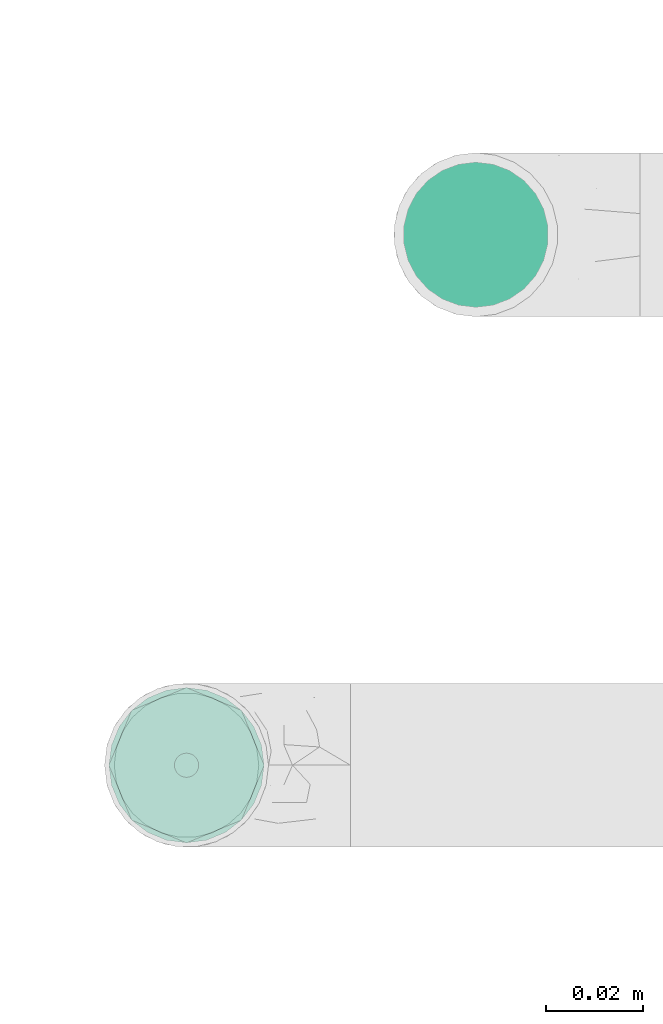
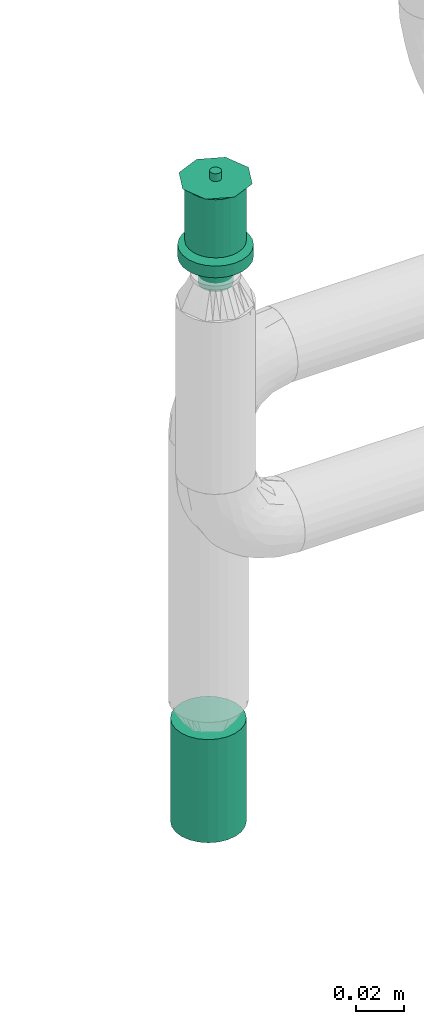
# One storey, part 37 of 157: 2 flow terminals.
"""IFC2X3 building model written with IfcOpenShell, lengths in millimetres."""

from ifc_helpers import new_model, entity, si_unit, converted_unit, derived_unit, direction, frame, origin_with_axes, place, context, subcontext, project, spatial, open_shell, surface_model, source, transform, mapped, type_object, element, save


model = new_model("IFC2X3")

# Units and contexts
model_context = context("Model", 3, precision=0.01, world=frame((0.0, 4.29681676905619e-09, 0.0)), true_north=direction((4.01073788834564e-13, 1.0)))
plan_context = context("Plan", 3, precision=0.01, world=frame((0.0, 4.29681676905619e-09, 0.0)), true_north=direction((4.01073788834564e-13, 1.0)))
body_context = subcontext(model_context, "Body", "Model", "MODEL_VIEW")
ifc_project = project(units=[converted_unit("PLANEANGLEUNIT", "DEGREE", entity("IfcPositiveLengthMeasure", 0.0174532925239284), si_unit("PLANEANGLEUNIT", "RADIAN"), dimensions=[0, 0, 0, 0, 0, 0, 0]), si_unit("AREAUNIT", "SQUARE_METRE"), si_unit("LENGTHUNIT", "METRE", prefix="MILLI"), si_unit("MASSUNIT", "GRAM", prefix="KILO"), si_unit("POWERUNIT", "WATT"), si_unit("PRESSUREUNIT", "PASCAL"), si_unit("FORCEUNIT", "NEWTON", prefix="KILO"), si_unit("ELECTRICCURRENTUNIT", "AMPERE"), si_unit("THERMODYNAMICTEMPERATUREUNIT", "DEGREE_CELSIUS"), si_unit("TIMEUNIT", "SECOND"), si_unit("VOLUMEUNIT", "CUBIC_METRE"), derived_unit("LINEARVELOCITYUNIT", [(si_unit("LENGTHUNIT", "METRE"), 1), (si_unit("TIMEUNIT", "SECOND"), -1)]), derived_unit("VOLUMETRICFLOWRATEUNIT", [(si_unit("VOLUMEUNIT", "CUBIC_METRE"), 1), (si_unit("TIMEUNIT", "SECOND"), -1)]), derived_unit("THERMALTRANSMITTANCEUNIT", [(si_unit("POWERUNIT", "WATT"), 1), (si_unit("THERMODYNAMICTEMPERATUREUNIT", "KELVIN"), -1), (si_unit("AREAUNIT", "SQUARE_METRE"), -1)])], contexts=[model_context, plan_context])

# Site, building, storey
site_placement = place(None, frame((0.0, -4.29681676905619e-09, 0.0), z_axis=(0.0, 0.0, 1.0), x_axis=(1.0, 0.0, 0.0)))
site = spatial("IfcSite", under=ifc_project, at=site_placement, CompositionType="ELEMENT")
building_placement = place(site_placement, frame((0.0, 4.29681676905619e-09, 0.0), z_axis=(0.0, 0.0, 1.0), x_axis=(1.0, 0.0, 0.0)))
building = spatial("IfcBuilding", under=site, at=building_placement, Name="mc-building", CompositionType="ELEMENT")
storey_placement = place(building_placement, frame((0.0, 0.0, 204000.0), z_axis=(0.0, 0.0, 1.0), x_axis=(1.0, 0.0, 0.0)))
storey = spatial("IfcBuildingStorey", under=building, at=storey_placement, Name="Nivå D", CompositionType="ELEMENT", Elevation=204000.0)

# Flow terminals
fire_suppression_terminal_type_1 = type_object("IfcFireSuppressionTerminalType", Name="SP-15-K80-68DGR-STD-HIMLING", PredefinedType="NOTDEFINED")
shared_shape_1 = source(origin_with_axes(), body_context, "Body", "SurfaceModel", [
    surface_model("IfcShellBasedSurfaceModel", [(4.1411, -15.45481, 53.0), (8.0, -13.85641, 53.0), (11.31371, -11.31371, 53.0), (-8.0, -13.85641, 53.0), (15.45481, -4.1411, 53.0), (16.0, 0.0, 53.0), (13.85641, -8.0, 53.0), (0.0, -16.0, 53.0), (-4.1411, -15.45481, 53.0), (-13.85641, -8.0, 53.0), (-11.31371, -11.31371, 53.0), (-15.45481, -4.1411, 53.0), (15.45481, 4.1411, 53.0), (13.85641, 8.0, 53.0), (11.31371, 11.31371, 53.0), (-4.1411, 15.45481, 53.0), (8.0, 13.85641, 53.0), (4.1411, 15.45481, 53.0), (0.0, 16.0, 53.0), (-13.85641, 8.0, 53.0), (-15.45481, 4.1411, 53.0), (-16.0, 0.0, 53.0), (-11.31371, 11.31371, 53.0), (-8.0, 13.85641, 53.0), (0.0, 16.0, 0.0), (4.1411, 15.45481, 0.0), (8.0, 13.85641, 0.0), (-4.1411, 15.45481, 0.0), (11.31371, 11.31371, 0.0), (13.85641, 8.0, 0.0), (15.45481, 4.1411, 0.0), (-15.45481, -4.1411, 0.0), (-11.31371, 11.31371, 0.0), (-8.0, 13.85641, 0.0), (-13.85641, 8.0, 0.0), (-15.45481, 4.1411, 0.0), (-16.0, 0.0, 0.0), (4.1411, -15.45481, 0.0), (16.0, 0.0, 0.0), (15.45481, -4.1411, 0.0), (13.85641, -8.0, 0.0), (11.31371, -11.31371, 0.0), (8.0, -13.85641, 0.0), (-8.0, -13.85641, 0.0), (-13.85641, -8.0, 0.0), (-11.31371, -11.31371, 0.0), (0.0, -16.0, 0.0), (-4.1411, -15.45481, 0.0)], [open_shell([[[0, 1, 2]], [[3, 0, 2]], [[4, 5, 2]], [[4, 2, 6]], [[3, 2, 5]], [[7, 3, 8]], [[7, 0, 3]], [[3, 9, 10]], [[9, 3, 11]], [[5, 11, 3]], [[5, 12, 11]], [[12, 13, 14]], [[15, 12, 14]], [[16, 17, 18]], [[14, 16, 15]], [[18, 15, 16]], [[11, 19, 20]], [[21, 11, 20]], [[22, 15, 23]], [[15, 22, 19]], [[19, 11, 15]], [[11, 12, 15]], [[24, 25, 26]], [[27, 24, 26]], [[28, 29, 30]], [[27, 26, 28]], [[27, 28, 31]], [[27, 32, 33]], [[32, 27, 34]], [[34, 31, 35]], [[31, 34, 27]], [[35, 31, 36]], [[28, 30, 31]], [[37, 38, 39]], [[37, 39, 40]], [[41, 42, 37]], [[41, 37, 40]], [[38, 37, 43]], [[44, 43, 45]], [[43, 44, 31]], [[43, 46, 47]], [[43, 31, 38]], [[37, 46, 43]], [[38, 31, 30]], [[11, 31, 44]], [[45, 9, 44]], [[3, 43, 47]], [[45, 43, 10]], [[8, 47, 46]], [[31, 21, 36]], [[31, 11, 21]], [[44, 9, 11]], [[45, 10, 9]], [[3, 10, 43]], [[47, 8, 3]], [[46, 7, 8]], [[0, 37, 42]], [[41, 1, 42]], [[6, 40, 39]], [[41, 40, 2]], [[4, 39, 38]], [[37, 0, 7]], [[42, 1, 0]], [[41, 2, 1]], [[40, 6, 2]], [[4, 6, 39]], [[38, 5, 4]], [[37, 7, 46]], [[12, 38, 30]], [[13, 30, 29]], [[16, 26, 25]], [[17, 25, 24]], [[30, 13, 12]], [[12, 5, 38]], [[28, 14, 13]], [[28, 26, 14]], [[14, 26, 16]], [[25, 17, 16]], [[28, 13, 29]], [[24, 18, 17]], [[15, 27, 33]], [[32, 23, 33]], [[19, 34, 35]], [[32, 34, 22]], [[20, 35, 36]], [[27, 15, 18]], [[33, 23, 15]], [[32, 22, 23]], [[34, 19, 22]], [[20, 19, 35]], [[36, 21, 20]], [[27, 18, 24]]])]),
])
flow_terminal_1_placement = place(storey_placement, frame((524500.0, 408200.0, 2700.0), z_axis=(0.0, 0.0, -1.0), x_axis=(1.0, 0.0, 0.0)))
element("IfcFlowTerminal", 1, at=flow_terminal_1_placement, inside=storey, type_object=fire_suppression_terminal_type_1, Name="SP-15-K80-68DGR-STD-HIMLING", context=body_context, shape_type="MappedRepresentation", body=[
    mapped(shared_shape_1, transform((0.0, 0.0, 0.0), scale=1.0)),
])
fire_suppression_terminal_type_2 = type_object("IfcFireSuppressionTerminalType", Name="68DGR-STD-STÅENDE", PredefinedType="NOTDEFINED")
shared_shape_2 = source(origin_with_axes(), body_context, "Body", "SurfaceModel", [
    surface_model("IfcShellBasedSurfaceModel", [(3.36465, -12.55704, 51.0), (6.5, -11.25833, 51.0), (9.19239, -9.19239, 51.0), (12.55704, -3.36465, 51.0), (-11.25833, -6.5, 51.0), (11.25833, -6.5, 51.0), (-13.0, 0.0, 51.0), (0.0, -13.0, 51.0), (-6.5, -11.25833, 51.0), (-3.36465, -12.55704, 51.0), (-9.19239, -9.19239, 51.0), (-12.55704, -3.36465, 51.0), (13.0, 0.0, 51.0), (12.55704, 3.36465, 51.0), (11.25833, 6.5, 51.0), (9.19239, 9.19239, 51.0), (6.5, 11.25833, 51.0), (3.36465, 12.55704, 51.0), (0.0, 13.0, 51.0), (-3.36465, 12.55704, 51.0), (-12.55704, 3.36465, 51.0), (-9.19239, 9.19239, 51.0), (-11.25833, 6.5, 51.0), (-6.5, 11.25833, 51.0), (0.0, 13.0, 21.14766), (3.36465, 12.55704, 21.14766), (6.5, 11.25833, 21.14766), (-3.36465, 12.55704, 21.14766), (9.19239, 9.19239, 21.14766), (11.25833, 6.5, 21.14766), (12.55704, 3.36465, 21.14766), (-12.55704, 3.36465, 21.14766), (-11.25833, -6.5, 21.14766), (-9.19239, 9.19239, 21.14766), (-6.5, 11.25833, 21.14766), (-11.25833, 6.5, 21.14766), (-13.0, 0.0, 21.14766), (12.55704, -3.36465, 21.14766), (9.19239, -9.19239, 21.14766), (11.25833, -6.5, 21.14766), (6.5, -11.25833, 21.14766), (3.36465, -12.55704, 21.14766), (-6.5, -11.25833, 21.14766), (-9.19239, -9.19239, 21.14766), (-12.55704, -3.36465, 21.14766), (0.0, -13.0, 21.14766), (-3.36465, -12.55704, 21.14766), (13.0, 0.0, 21.14766), (7.24444, -1.94114, 0.1), (1.94114, -7.24444, 0.1), (3.75, -6.49519, 0.1), (5.3033, -5.3033, 0.1), (-5.3033, -5.3033, 0.1), (6.49519, -3.75, 0.1), (5.3033, 5.3033, 0.1), (0.0, -7.5, 0.1), (-3.75, -6.49519, 0.1), (-1.94114, -7.24444, 0.1), (-7.24444, -1.94114, 0.1), (-6.49519, -3.75, 0.1), (-7.24444, 1.94114, 0.1), (7.5, 0.0, 0.1), (6.49519, 3.75, 0.1), (-6.49519, 3.75, 0.1), (1.94114, 7.24444, 0.1), (0.0, 7.5, 0.1), (3.75, 6.49519, 0.1), (-7.5, 0.0, 0.1), (-5.3033, 5.3033, 0.1), (-1.94114, 7.24444, 0.1), (-3.75, 6.49519, 0.1), (7.24444, 1.94114, 0.1), (1.94114, 7.24444, -0.1), (-6.49519, 3.75, -0.1), (0.0, 7.5, -0.1), (5.3033, 5.3033, -0.1), (3.75, 6.49519, -0.1), (6.49519, 3.75, -0.1), (7.24444, 1.94114, -0.1), (-1.94114, 7.24444, -0.1), (-5.3033, 5.3033, -0.1), (-3.75, 6.49519, -0.1), (-7.24444, 1.94114, -0.1), (-7.24444, -1.94114, -0.1), (-7.5, 0.0, -0.1), (7.5, 0.0, -0.1), (7.24444, -1.94114, -0.1), (-5.3033, -5.3033, -0.1), (1.94114, -7.24444, -0.1), (6.49519, -3.75, -0.1), (5.3033, -5.3033, -0.1), (3.75, -6.49519, -0.1), (-6.49519, -3.75, -0.1), (-3.75, -6.49519, -0.1), (0.0, -7.5, -0.1), (-1.94114, -7.24444, -0.1), (0.0, -2.5, 51.0), (-2.5, 0.0, 51.0), (0.0, 2.5, 51.0), (2.5, 0.0, 51.0), (0.0, -16.0, 53.0), (11.31371, -11.31371, 53.0), (-11.31371, -11.31371, 53.0), (-16.0, 0.0, 53.0), (16.0, 0.0, 53.0), (11.31371, 11.31371, 53.0), (0.0, 16.0, 53.0), (-11.31371, 11.31371, 53.0), (1.25, -2.16506, 57.0), (0.0, -2.5, 57.0), (0.64705, -2.41481, 57.0), (2.41481, -0.64705, 57.0), (1.76777, -1.76777, 57.0), (-2.41481, -0.64705, 57.0), (-2.5, 0.0, 57.0), (2.16506, -1.25, 57.0), (-1.25, -2.16506, 57.0), (-0.64705, -2.41481, 57.0), (-1.76777, -1.76777, 57.0), (-2.16506, -1.25, 57.0), (2.5, 0.0, 57.0), (2.41481, 0.64705, 57.0), (2.16506, 1.25, 57.0), (1.76777, 1.76777, 57.0), (0.64705, 2.41481, 57.0), (1.25, 2.16506, 57.0), (-1.76777, 1.76777, 57.0), (0.0, 2.5, 57.0), (-2.16506, 1.25, 57.0), (-2.41481, 0.64705, 57.0), (-0.64705, 2.41481, 57.0), (-1.25, 2.16506, 57.0), (1.25, 2.16506, 51.0), (1.76777, 1.76777, 51.0), (1.15, 1.99186, 51.0), (0.59528, 2.22163, 51.0), (0.64705, 2.41481, 51.0), (0.0, 2.3, 51.0), (1.62635, 1.62635, 51.0), (2.41481, 0.64705, 51.0), (2.3, 0.0, 51.0), (2.22163, 0.59528, 51.0), (2.16506, 1.25, 51.0), (1.99186, 1.15, 51.0), (-0.59528, 2.22163, 51.0), (-0.64705, 2.41481, 51.0), (-1.15, 1.99186, 51.0), (-1.76777, 1.76777, 51.0), (-1.25, 2.16506, 51.0), (-1.62635, 1.62635, 51.0), (-1.99186, 1.15, 51.0), (-2.16506, 1.25, 51.0), (-2.22163, 0.59528, 51.0), (-2.41481, 0.64705, 51.0), (-2.3, 0.0, 51.0), (2.41481, -0.64705, 51.0), (2.22163, -0.59528, 51.0), (1.99186, -1.15, 51.0), (2.16506, -1.25, 51.0), (1.62635, -1.62635, 51.0), (1.76777, -1.76777, 51.0), (1.25, -2.16506, 51.0), (1.15, -1.99186, 51.0), (0.59528, -2.22163, 51.0), (0.64705, -2.41481, 51.0), (0.0, -2.3, 51.0), (-2.16506, -1.25, 51.0), (-1.99186, -1.15, 51.0), (-1.76777, -1.76777, 51.0), (-1.62635, -1.62635, 51.0), (-2.41481, -0.64705, 51.0), (-2.22163, -0.59528, 51.0), (-0.59528, -2.22163, 51.0), (-0.64705, -2.41481, 51.0), (-1.15, -1.99186, 51.0), (-1.25, -2.16506, 51.0), (1.62635, -1.62635, 56.8), (1.15, -1.99186, 56.8), (0.59528, -2.22163, 56.8), (0.0, -2.3, 56.8), (2.22163, 0.59528, 56.8), (1.99186, -1.15, 56.8), (2.22163, -0.59528, 56.8), (-0.59528, -2.22163, 56.8), (-1.15, -1.99186, 56.8), (-1.62635, -1.62635, 56.8), (-1.99186, -1.15, 56.8), (-2.22163, -0.59528, 56.8), (-1.99186, 1.15, 56.8), (2.3, 0.0, 56.8), (1.62635, 1.62635, 56.8), (1.99186, 1.15, 56.8), (1.15, 1.99186, 56.8), (0.0, 2.3, 56.8), (0.59528, 2.22163, 56.8), (-2.22163, 0.59528, 56.8), (-2.3, 0.0, 56.8), (-1.15, 1.99186, 56.8), (-0.59528, 2.22163, 56.8), (-1.62635, 1.62635, 56.8), (4.1411, -15.45481, 19.0), (8.0, -13.85641, 19.0), (11.31371, -11.31371, 19.0), (-8.0, -13.85641, 19.0), (15.45481, -4.1411, 19.0), (16.0, 0.0, 19.0), (13.85641, -8.0, 19.0), (0.0, -16.0, 19.0), (-4.1411, -15.45481, 19.0), (-13.85641, -8.0, 19.0), (-11.31371, -11.31371, 19.0), (-15.45481, -4.1411, 19.0), (15.45481, 4.1411, 19.0), (13.85641, 8.0, 19.0), (11.31371, 11.31371, 19.0), (-4.1411, 15.45481, 19.0), (8.0, 13.85641, 19.0), (4.1411, 15.45481, 19.0), (0.0, 16.0, 19.0), (-13.85641, 8.0, 19.0), (-15.45481, 4.1411, 19.0), (-16.0, 0.0, 19.0), (-11.31371, 11.31371, 19.0), (-8.0, 13.85641, 19.0), (0.0, 16.0, 13.0), (4.1411, 15.45481, 13.0), (8.0, 13.85641, 13.0), (-4.1411, 15.45481, 13.0), (11.31371, 11.31371, 13.0), (13.85641, 8.0, 13.0), (15.45481, 4.1411, 13.0), (-15.45481, -4.1411, 13.0), (-11.31371, 11.31371, 13.0), (-8.0, 13.85641, 13.0), (-13.85641, 8.0, 13.0), (-15.45481, 4.1411, 13.0), (-16.0, 0.0, 13.0), (4.1411, -15.45481, 13.0), (16.0, 0.0, 13.0), (15.45481, -4.1411, 13.0), (13.85641, -8.0, 13.0), (11.31371, -11.31371, 13.0), (8.0, -13.85641, 13.0), (-8.0, -13.85641, 13.0), (-13.85641, -8.0, 13.0), (-11.31371, -11.31371, 13.0), (0.0, -16.0, 13.0), (-4.1411, -15.45481, 13.0), (7.24444, -1.94114, 13.0), (1.94114, -7.24444, 13.0), (3.75, -6.49519, 13.0), (5.3033, -5.3033, 13.0), (-5.3033, -5.3033, 13.0), (6.49519, -3.75, 13.0), (5.3033, 5.3033, 13.0), (0.0, -7.5, 13.0), (-3.75, -6.49519, 13.0), (-1.94114, -7.24444, 13.0), (-7.24444, -1.94114, 13.0), (-6.49519, -3.75, 13.0), (-7.24444, 1.94114, 13.0), (7.5, 0.0, 13.0), (6.49519, 3.75, 13.0), (-6.49519, 3.75, 13.0), (1.94114, 7.24444, 13.0), (0.0, 7.5, 13.0), (3.75, 6.49519, 13.0), (-7.5, 0.0, 13.0), (-5.3033, 5.3033, 13.0), (-1.94114, 7.24444, 13.0), (-3.75, 6.49519, 13.0), (7.24444, 1.94114, 13.0), (3.75, 6.49519, 0.0), (5.3033, 5.3033, 0.0), (3.65, 6.32199, 0.0), (1.88938, 7.05126, 0.0), (0.0, 7.3, 0.0), (1.94114, 7.24444, 0.0), (0.0, 7.5, 0.0), (5.16188, 5.16188, 0.0), (7.24444, 1.94114, 0.0), (7.3, 0.0, 0.0), (7.05126, 1.88938, 0.0), (7.5, 0.0, 0.0), (6.49519, 3.75, 0.0), (6.32199, 3.65, 0.0), (-1.88938, 7.05126, 0.0), (-1.94114, 7.24444, 0.0), (-3.65, 6.32199, 0.0), (-5.3033, 5.3033, 0.0), (-3.75, 6.49519, 0.0), (-5.16188, 5.16188, 0.0), (-6.32199, 3.65, 0.0), (-6.49519, 3.75, 0.0), (-7.05126, 1.88938, 0.0), (-7.24444, 1.94114, 0.0), (-7.3, 0.0, 0.0), (-7.5, 0.0, 0.0), (7.24444, -1.94114, 0.0), (7.05126, -1.88938, 0.0), (6.32199, -3.65, 0.0), (6.49519, -3.75, 0.0), (5.16188, -5.16188, 0.0), (5.3033, -5.3033, 0.0), (3.75, -6.49519, 0.0), (3.65, -6.32199, 0.0), (1.88938, -7.05126, 0.0), (1.94114, -7.24444, 0.0), (0.0, -7.3, 0.0), (0.0, -7.5, 0.0), (-6.49519, -3.75, 0.0), (-6.32199, -3.65, 0.0), (-5.3033, -5.3033, 0.0), (-5.16188, -5.16188, 0.0), (-7.24444, -1.94114, 0.0), (-7.05126, -1.88938, 0.0), (-1.88938, -7.05126, 0.0), (-1.94114, -7.24444, 0.0), (-3.65, -6.32199, 0.0), (-3.75, -6.49519, 0.0), (1.88938, -7.05126, 12.8), (0.0, -7.3, 12.8), (3.65, -6.32199, 12.8), (5.16188, -5.16188, 12.8), (6.32199, -3.65, 12.8), (7.05126, 1.88938, 12.8), (7.05126, -1.88938, 12.8), (-5.16188, -5.16188, 12.8), (-1.88938, -7.05126, 12.8), (-3.65, -6.32199, 12.8), (-6.32199, -3.65, 12.8), (-7.05126, -1.88938, 12.8), (0.0, 7.3, 12.8), (7.3, 0.0, 12.8), (6.32199, 3.65, 12.8), (5.16188, 5.16188, 12.8), (3.65, 6.32199, 12.8), (1.88938, 7.05126, 12.8), (-6.32199, 3.65, 12.8), (-7.05126, 1.88938, 12.8), (-7.3, 0.0, 12.8), (-3.65, 6.32199, 12.8), (-1.88938, 7.05126, 12.8), (-5.16188, 5.16188, 12.8)], [open_shell([[[0, 1, 2]], [[0, 2, 3]], [[0, 3, 4]], [[3, 2, 5]], [[6, 4, 3]], [[7, 8, 9]], [[7, 0, 8]], [[8, 4, 10]], [[0, 4, 8]], [[4, 6, 11]], [[6, 3, 12]], [[13, 14, 15]], [[6, 13, 15]], [[16, 17, 18]], [[15, 16, 19]], [[18, 19, 16]], [[20, 21, 22]], [[20, 6, 15]], [[21, 19, 23]], [[19, 21, 20]], [[15, 19, 20]], [[13, 6, 12]], [[24, 25, 26]], [[27, 24, 26]], [[28, 29, 30]], [[26, 28, 31]], [[28, 32, 31]], [[27, 33, 34]], [[33, 27, 31]], [[33, 31, 35]], [[27, 26, 31]], [[31, 32, 36]], [[32, 28, 30]], [[32, 30, 37]], [[38, 37, 39]], [[38, 40, 41]], [[38, 41, 37]], [[32, 37, 41]], [[32, 42, 43]], [[44, 36, 32]], [[42, 45, 46]], [[42, 32, 41]], [[45, 42, 41]], [[30, 47, 37]], [[4, 32, 43]], [[8, 42, 46]], [[43, 42, 10]], [[9, 46, 45]], [[36, 11, 6]], [[11, 36, 44]], [[11, 44, 4]], [[44, 32, 4]], [[43, 10, 4]], [[8, 10, 42]], [[46, 9, 8]], [[45, 7, 9]], [[0, 41, 40]], [[38, 1, 40]], [[5, 39, 37]], [[38, 39, 2]], [[3, 37, 47]], [[41, 0, 7]], [[40, 1, 0]], [[38, 2, 1]], [[39, 5, 2]], [[3, 5, 37]], [[47, 12, 3]], [[41, 7, 45]], [[30, 13, 47]], [[29, 14, 30]], [[25, 24, 17]], [[15, 29, 28]], [[30, 14, 13]], [[13, 12, 47]], [[16, 26, 17]], [[16, 15, 28]], [[26, 25, 17]], [[15, 14, 29]], [[28, 26, 16]], [[24, 18, 17]], [[19, 27, 34]], [[33, 23, 34]], [[22, 35, 31]], [[33, 35, 21]], [[20, 31, 36]], [[27, 19, 18]], [[34, 23, 19]], [[33, 21, 23]], [[35, 22, 21]], [[20, 22, 31]], [[36, 6, 20]], [[27, 18, 24]], [[48, 49, 50]], [[48, 50, 51]], [[49, 48, 52]], [[48, 51, 53]], [[54, 52, 48]], [[55, 56, 57]], [[56, 55, 52]], [[52, 58, 59]], [[52, 55, 49]], [[52, 60, 58]], [[54, 48, 61]], [[62, 54, 61]], [[54, 63, 52]], [[64, 65, 54]], [[64, 54, 66]], [[63, 54, 65]], [[63, 60, 52]], [[67, 58, 60]], [[68, 69, 70]], [[69, 68, 63]], [[69, 63, 65]], [[71, 62, 61]], [[72, 73, 74]], [[75, 72, 76]], [[75, 77, 78]], [[72, 75, 73]], [[78, 73, 75]], [[79, 80, 81]], [[80, 79, 73]], [[74, 73, 79]], [[78, 82, 73]], [[82, 83, 84]], [[82, 78, 85]], [[86, 87, 85]], [[88, 86, 89]], [[90, 91, 88]], [[90, 88, 89]], [[87, 86, 88]], [[83, 87, 92]], [[83, 85, 87]], [[93, 94, 95]], [[94, 93, 87]], [[88, 94, 87]], [[85, 83, 82]], [[83, 58, 84]], [[92, 59, 83]], [[56, 87, 93]], [[92, 87, 52]], [[57, 93, 95]], [[83, 59, 58]], [[58, 67, 84]], [[57, 56, 93]], [[52, 87, 56]], [[52, 59, 92]], [[55, 57, 95]], [[95, 94, 55]], [[88, 49, 94]], [[91, 50, 88]], [[53, 90, 89]], [[91, 90, 51]], [[48, 89, 86]], [[91, 51, 50]], [[50, 49, 88]], [[61, 48, 86]], [[53, 89, 48]], [[53, 51, 90]], [[85, 61, 86]], [[94, 49, 55]], [[78, 71, 85]], [[77, 62, 78]], [[66, 75, 76]], [[77, 75, 54]], [[64, 76, 72]], [[78, 62, 71]], [[71, 61, 85]], [[64, 66, 76]], [[54, 75, 66]], [[54, 62, 77]], [[65, 64, 72]], [[72, 74, 65]], [[79, 69, 74]], [[81, 70, 79]], [[63, 80, 73]], [[81, 80, 68]], [[60, 73, 82]], [[81, 68, 70]], [[70, 69, 79]], [[67, 60, 82]], [[63, 73, 60]], [[63, 68, 80]], [[84, 67, 82]], [[74, 69, 65]], [[96, 97, 98]], [[98, 99, 96]], [[100, 101, 102]], [[103, 102, 101]], [[101, 104, 103]], [[104, 105, 106]], [[107, 103, 106]], [[106, 103, 104]], [[99, 98, 105]], [[105, 104, 99]], [[98, 106, 105]], [[98, 107, 106]], [[107, 98, 97]], [[103, 107, 97]], [[97, 96, 102]], [[102, 103, 97]], [[96, 100, 102]], [[96, 101, 100]], [[101, 96, 99]], [[104, 101, 99]], [[108, 109, 110]], [[111, 108, 112]], [[113, 108, 114]], [[111, 112, 115]], [[108, 111, 114]], [[109, 116, 117]], [[116, 109, 118]], [[118, 113, 119]], [[118, 109, 108]], [[108, 113, 118]], [[111, 120, 114]], [[121, 122, 123]], [[114, 121, 123]], [[114, 123, 124]], [[124, 123, 125]], [[126, 124, 127]], [[124, 128, 129]], [[129, 114, 124]], [[126, 130, 131]], [[128, 124, 126]], [[130, 126, 127]], [[121, 114, 120]], [[132, 133, 134]], [[132, 134, 135]], [[136, 135, 137]], [[135, 136, 132]], [[136, 137, 98]], [[134, 133, 138]], [[139, 140, 141]], [[140, 139, 99]], [[139, 141, 142]], [[138, 142, 143]], [[142, 138, 133]], [[143, 142, 141]], [[98, 144, 145]], [[98, 137, 144]], [[145, 144, 146]], [[147, 148, 149]], [[146, 148, 145]], [[149, 148, 146]], [[150, 151, 147]], [[151, 150, 152]], [[150, 147, 149]], [[153, 152, 154]], [[152, 153, 151]], [[153, 154, 97]], [[99, 155, 156]], [[156, 155, 157]], [[157, 158, 159]], [[158, 157, 155]], [[159, 158, 160]], [[160, 161, 162]], [[162, 161, 163]], [[163, 164, 165]], [[164, 163, 161]], [[165, 164, 96]], [[162, 159, 160]], [[166, 167, 168]], [[168, 167, 169]], [[167, 166, 170]], [[97, 171, 170]], [[170, 171, 167]], [[97, 154, 171]], [[172, 96, 173]], [[172, 173, 174]], [[169, 175, 168]], [[175, 169, 174]], [[175, 174, 173]], [[165, 96, 172]], [[156, 140, 99]], [[170, 113, 97]], [[166, 119, 170]], [[116, 168, 175]], [[166, 168, 118]], [[117, 175, 173]], [[170, 119, 113]], [[113, 114, 97]], [[117, 116, 175]], [[118, 168, 116]], [[118, 119, 166]], [[109, 117, 173]], [[173, 96, 109]], [[164, 110, 96]], [[161, 108, 164]], [[115, 160, 158]], [[161, 160, 112]], [[111, 158, 155]], [[161, 112, 108]], [[108, 110, 164]], [[120, 111, 155]], [[115, 158, 111]], [[115, 112, 160]], [[99, 120, 155]], [[96, 110, 109]], [[139, 121, 99]], [[142, 122, 139]], [[125, 133, 132]], [[142, 133, 123]], [[124, 132, 136]], [[139, 122, 121]], [[121, 120, 99]], [[124, 125, 132]], [[123, 133, 125]], [[123, 122, 142]], [[127, 124, 136]], [[136, 98, 127]], [[145, 130, 98]], [[148, 131, 145]], [[128, 147, 151]], [[148, 147, 126]], [[129, 151, 153]], [[148, 126, 131]], [[131, 130, 145]], [[114, 129, 153]], [[128, 151, 129]], [[128, 126, 147]], [[97, 114, 153]], [[98, 130, 127]], [[176, 177, 178]], [[176, 178, 179]], [[180, 176, 179]], [[181, 176, 182]], [[180, 182, 176]], [[183, 184, 179]], [[185, 179, 184]], [[186, 187, 185]], [[185, 187, 188]], [[179, 185, 188]], [[189, 182, 180]], [[190, 191, 180]], [[192, 190, 180]], [[193, 194, 192]], [[180, 193, 192]], [[188, 193, 180]], [[195, 188, 196]], [[196, 188, 187]], [[197, 198, 199]], [[188, 199, 198]], [[188, 198, 193]], [[180, 179, 188]], [[154, 187, 171]], [[171, 186, 167]], [[174, 169, 184]], [[185, 169, 167]], [[172, 174, 183]], [[187, 186, 171]], [[154, 196, 187]], [[174, 184, 183]], [[184, 169, 185]], [[167, 186, 185]], [[172, 183, 179]], [[179, 165, 172]], [[165, 178, 163]], [[163, 177, 162]], [[157, 159, 181]], [[176, 159, 162]], [[156, 157, 182]], [[177, 176, 162]], [[163, 178, 177]], [[156, 182, 189]], [[182, 157, 181]], [[159, 176, 181]], [[156, 189, 140]], [[179, 178, 165]], [[140, 180, 141]], [[141, 191, 143]], [[134, 138, 192]], [[190, 138, 143]], [[135, 134, 194]], [[180, 191, 141]], [[140, 189, 180]], [[134, 192, 194]], [[192, 138, 190]], [[143, 191, 190]], [[135, 194, 193]], [[193, 137, 135]], [[137, 198, 144]], [[144, 197, 146]], [[150, 149, 188]], [[199, 149, 146]], [[152, 150, 195]], [[197, 199, 146]], [[144, 198, 197]], [[152, 195, 196]], [[195, 150, 188]], [[149, 199, 188]], [[152, 196, 154]], [[193, 198, 137]], [[200, 201, 202]], [[203, 200, 202]], [[204, 205, 202]], [[204, 202, 206]], [[203, 202, 205]], [[207, 203, 208]], [[207, 200, 203]], [[203, 209, 210]], [[209, 203, 211]], [[205, 211, 203]], [[205, 212, 211]], [[212, 213, 214]], [[215, 212, 214]], [[216, 217, 218]], [[214, 216, 215]], [[218, 215, 216]], [[211, 219, 220]], [[221, 211, 220]], [[222, 215, 223]], [[215, 222, 219]], [[219, 211, 215]], [[211, 212, 215]], [[224, 225, 226]], [[227, 224, 226]], [[228, 229, 230]], [[227, 226, 228]], [[227, 228, 231]], [[227, 232, 233]], [[232, 227, 234]], [[234, 231, 235]], [[231, 234, 227]], [[235, 231, 236]], [[228, 230, 231]], [[237, 238, 239]], [[237, 239, 240]], [[241, 242, 237]], [[241, 237, 240]], [[238, 237, 243]], [[244, 243, 245]], [[243, 244, 231]], [[243, 246, 247]], [[243, 231, 238]], [[237, 246, 243]], [[238, 231, 230]], [[231, 211, 236]], [[244, 209, 231]], [[203, 245, 243]], [[244, 245, 210]], [[208, 243, 247]], [[231, 209, 211]], [[211, 221, 236]], [[208, 203, 243]], [[210, 245, 203]], [[210, 209, 244]], [[207, 208, 247]], [[247, 246, 207]], [[237, 200, 246]], [[242, 201, 237]], [[206, 241, 240]], [[242, 241, 202]], [[204, 240, 239]], [[242, 202, 201]], [[201, 200, 237]], [[205, 204, 239]], [[206, 240, 204]], [[206, 202, 241]], [[238, 205, 239]], [[246, 200, 207]], [[230, 212, 238]], [[229, 213, 230]], [[216, 228, 226]], [[229, 228, 214]], [[217, 226, 225]], [[230, 213, 212]], [[212, 205, 238]], [[217, 216, 226]], [[214, 228, 216]], [[214, 213, 229]], [[218, 217, 225]], [[225, 224, 218]], [[227, 215, 224]], [[233, 223, 227]], [[219, 232, 234]], [[233, 232, 222]], [[220, 234, 235]], [[233, 222, 223]], [[223, 215, 227]], [[221, 220, 235]], [[219, 234, 220]], [[219, 222, 232]], [[236, 221, 235]], [[224, 215, 218]], [[248, 249, 250]], [[248, 250, 251]], [[249, 248, 252]], [[248, 251, 253]], [[254, 252, 248]], [[255, 256, 257]], [[256, 255, 252]], [[252, 258, 259]], [[252, 255, 249]], [[252, 260, 258]], [[254, 248, 261]], [[262, 254, 261]], [[254, 263, 252]], [[264, 265, 254]], [[264, 254, 266]], [[263, 254, 265]], [[263, 260, 252]], [[267, 258, 260]], [[268, 269, 270]], [[269, 268, 263]], [[269, 263, 265]], [[271, 262, 261]], [[272, 273, 274]], [[272, 274, 275]], [[276, 277, 275]], [[277, 276, 278]], [[275, 277, 272]], [[274, 273, 279]], [[280, 281, 282]], [[281, 280, 283]], [[280, 282, 284]], [[279, 284, 285]], [[284, 279, 273]], [[285, 284, 282]], [[278, 286, 287]], [[287, 286, 288]], [[289, 290, 291]], [[288, 290, 287]], [[288, 291, 290]], [[278, 276, 286]], [[292, 293, 289]], [[293, 292, 294]], [[292, 289, 291]], [[295, 294, 296]], [[294, 295, 293]], [[295, 296, 297]], [[283, 298, 299]], [[299, 298, 300]], [[300, 301, 302]], [[301, 300, 298]], [[302, 301, 303]], [[303, 304, 305]], [[305, 304, 306]], [[306, 307, 308]], [[307, 306, 304]], [[308, 307, 309]], [[305, 302, 303]], [[310, 311, 312]], [[312, 311, 313]], [[311, 310, 314]], [[297, 315, 314]], [[314, 315, 311]], [[297, 296, 315]], [[316, 309, 317]], [[316, 317, 318]], [[313, 319, 312]], [[313, 318, 319]], [[319, 318, 317]], [[308, 309, 316]], [[299, 281, 283]], [[314, 258, 297]], [[310, 259, 314]], [[256, 312, 319]], [[310, 312, 252]], [[257, 319, 317]], [[314, 259, 258]], [[258, 267, 297]], [[257, 256, 319]], [[252, 312, 256]], [[252, 259, 310]], [[255, 257, 317]], [[317, 309, 255]], [[307, 249, 309]], [[304, 250, 307]], [[253, 303, 301]], [[304, 303, 251]], [[248, 301, 298]], [[304, 251, 250]], [[250, 249, 307]], [[261, 248, 298]], [[253, 301, 248]], [[253, 251, 303]], [[283, 261, 298]], [[309, 249, 255]], [[280, 271, 283]], [[284, 262, 280]], [[266, 273, 272]], [[284, 273, 254]], [[264, 272, 277]], [[280, 262, 271]], [[271, 261, 283]], [[264, 266, 272]], [[254, 273, 266]], [[254, 262, 284]], [[265, 264, 277]], [[277, 278, 265]], [[287, 269, 278]], [[290, 270, 287]], [[263, 289, 293]], [[290, 289, 268]], [[260, 293, 295]], [[290, 268, 270]], [[270, 269, 287]], [[267, 260, 295]], [[263, 293, 260]], [[263, 268, 289]], [[297, 267, 295]], [[278, 269, 265]], [[320, 321, 322]], [[323, 322, 324]], [[325, 326, 322]], [[324, 322, 326]], [[322, 327, 325]], [[328, 329, 321]], [[327, 321, 329]], [[330, 331, 327]], [[322, 321, 327]], [[331, 332, 327]], [[326, 325, 333]], [[334, 325, 332]], [[335, 334, 336]], [[332, 337, 336]], [[334, 332, 336]], [[331, 338, 332]], [[339, 338, 340]], [[340, 338, 331]], [[341, 342, 343]], [[332, 338, 343]], [[332, 343, 342]], [[332, 325, 327]], [[296, 331, 315]], [[315, 330, 311]], [[318, 313, 329]], [[327, 313, 311]], [[316, 318, 328]], [[331, 330, 315]], [[296, 340, 331]], [[318, 329, 328]], [[329, 313, 327]], [[311, 330, 327]], [[316, 328, 321]], [[321, 308, 316]], [[308, 320, 306]], [[306, 322, 305]], [[300, 302, 324]], [[323, 302, 305]], [[299, 300, 326]], [[322, 323, 305]], [[306, 320, 322]], [[299, 326, 333]], [[326, 300, 324]], [[302, 323, 324]], [[299, 333, 281]], [[321, 320, 308]], [[281, 325, 282]], [[282, 334, 285]], [[274, 279, 336]], [[335, 279, 285]], [[275, 274, 337]], [[325, 334, 282]], [[281, 333, 325]], [[274, 336, 337]], [[336, 279, 335]], [[285, 334, 335]], [[275, 337, 332]], [[332, 276, 275]], [[276, 342, 286]], [[286, 341, 288]], [[292, 291, 338]], [[343, 291, 288]], [[294, 292, 339]], [[341, 343, 288]], [[286, 342, 341]], [[294, 339, 340]], [[339, 292, 338]], [[291, 343, 338]], [[294, 340, 296]], [[332, 342, 276]]])]),
])
flow_terminal_2_placement = place(storey_placement, frame((524440.35, 408090.6375, 3011.5), z_axis=(0.0, 0.0, 1.0), x_axis=(1.0, 0.0, 0.0)))
element("IfcFlowTerminal", 2, at=flow_terminal_2_placement, inside=storey, type_object=fire_suppression_terminal_type_2, Name="68DGR-STD-STÅENDE", context=body_context, shape_type="MappedRepresentation", body=[
    mapped(shared_shape_2, transform((0.0, 0.0, 0.0), scale=1.0)),
])

save(model, "model.ifc")
